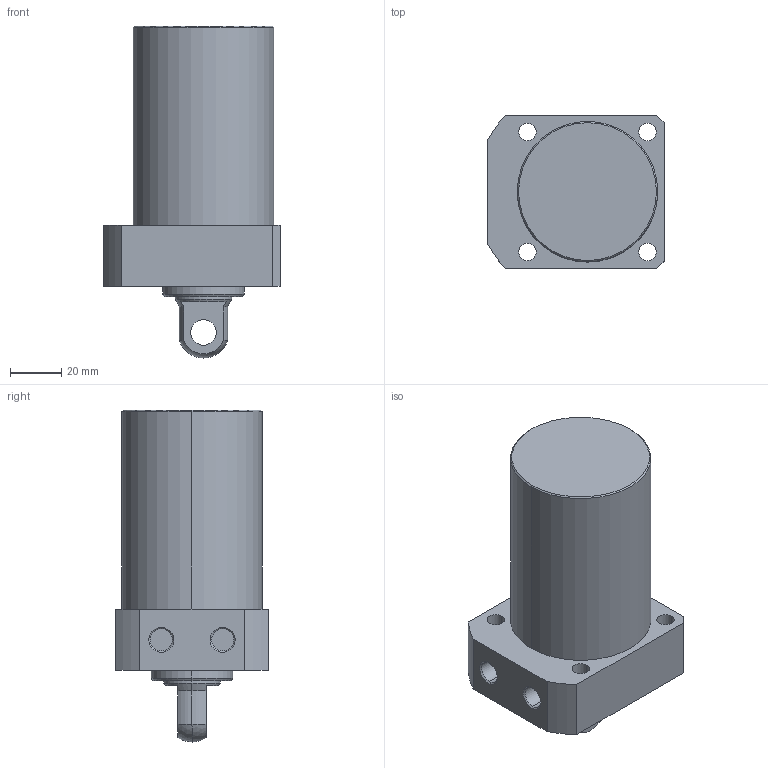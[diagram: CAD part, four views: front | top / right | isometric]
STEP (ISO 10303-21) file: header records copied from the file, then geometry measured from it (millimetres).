
FILE_DESCRIPTION (( 'STEP AP203' ), '1' );
FILE_NAME ('CLLR-055CP-065.STEP', '2019-12-19T08:30:19', ( '' ), ( '' ), 'SwSTEP 2.0', 'SolidWorks 2015', '' );
FILE_SCHEMA (( 'CONFIG_CONTROL_DESIGN' ));
Length unit declared in the file: millimetre
Products named in the file (1): CLLR-055CP-065
Bounding box: 69 x 60 x 130 mm (x, y, z)
Volume: 284564 mm3; surface area: 31755.4 mm2
Topology: 1 solids, 1 shells, 59 faces, 139 edges, 89 vertices
Faces by surface type: cylinder 29, plane 18, cone 10, sphere 2
Entity records: 1820 total; most frequent: DIRECTION 329, CARTESIAN_POINT 300, ORIENTED_EDGE 278, EDGE_CURVE 139, AXIS2_PLACEMENT_3D 134, VERTEX_POINT 89, EDGE_LOOP 76, CIRCLE 74
